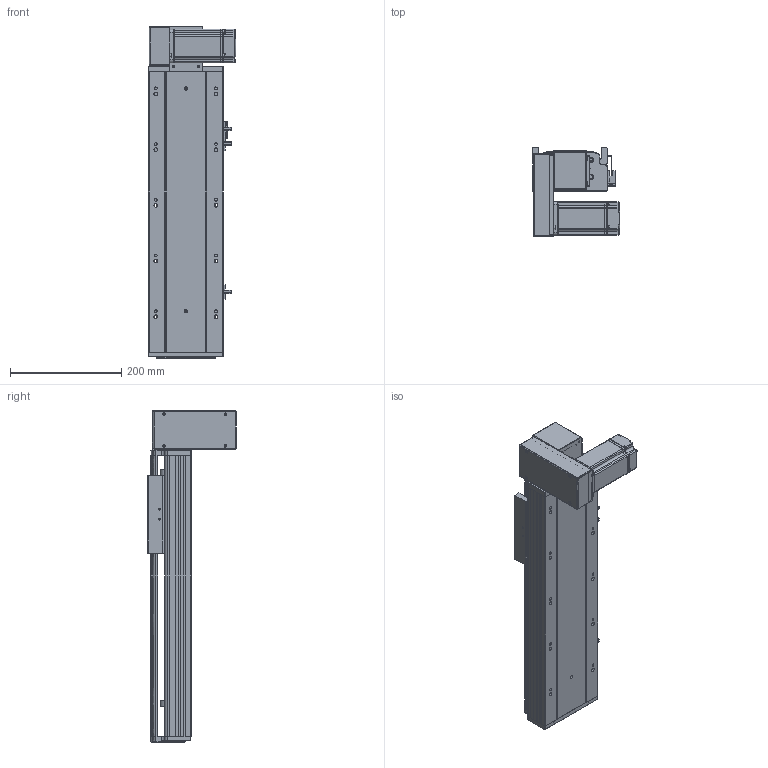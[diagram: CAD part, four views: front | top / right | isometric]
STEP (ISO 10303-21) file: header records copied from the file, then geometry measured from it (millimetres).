
FILE_DESCRIPTION (( 'STEP AP203' ), '1' );
FILE_NAME ('RY140-T-300-DL.SLDASM_250.step', '2021-03-01T06:05:26', ( '盈信电脑' ), ( '东莞市道滘镇水果街19号' ), 'SwSTEP 2.0', 'SolidWorks 2012', '' );
FILE_SCHEMA (( 'CONFIG_CONTROL_DESIGN' ));
Length unit declared in the file: millimetre
Products named in the file (18): RY140-T翋肮謫裔啣; RY140-T-300-DL.SLDASM_250; RY120-T蹟翐M4; RY140-T萇儂欶; 滅袉蝶18-10; RY140-T萇儂假蚾啣; RY120-T主同步轮轴承压盖; 15; 侂狟400W侜督萇儂; RY120-T肮祭湍揤踡輸2; RY140-T翋肮祭謫盓傅釱; RY120-T肮祭湍揤踡輸1; RY140-T-300-DL倰第奻裔啣_250; RY140綴裔啣; 覜茼ん672; RY120外置感应片(140共用）; RY140-T-300-DL倰第菁釱_250; RY140肮祭謫臏賑輸
Assembly tree (23 placements, depth 3):
  RY140-T-300-DL.SLDASM_250
    RY140-T-300-DL倰第菁釱_250
    RY140肮祭謫臏賑輸
    RY140-T-300-DL倰第奻裔啣_250
    RY140綴裔啣
    覜茼ん672  x3
    RY120外置感应片(140共用）
    RY120-T肮祭湍揤踡輸2
    RY120-T肮祭湍揤踡輸1
    RY140-T翋肮祭謫盓傅釱
    RY140-T萇儂假蚾啣
    侂狟400W侜督萇儂
      15
    RY120-T主同步轮轴承压盖
    RY120-T蹟翐M4  x4
    RY140-T萇儂欶
    滅袉蝶18-10  x2
    RY140-T翋肮謫裔啣
Bounding box: 157 x 158.5 x 596 mm (x, y, z)
Volume: 2201414.3 mm3; surface area: 792529.6 mm2
Topology: 22 solids, 22 shells, 2546 faces, 6950 edges, 4490 vertices
Faces by surface type: plane 1385, cylinder 891, cone 170, bspline 100
Entity records: 80524 total; most frequent: CARTESIAN_POINT 19701, ORIENTED_EDGE 12484, DIRECTION 11824, EDGE_CURVE 6242, VERTEX_POINT 4089, LINE 4070, VECTOR 4070, AXIS2_PLACEMENT_3D 3877
